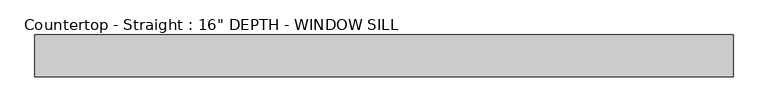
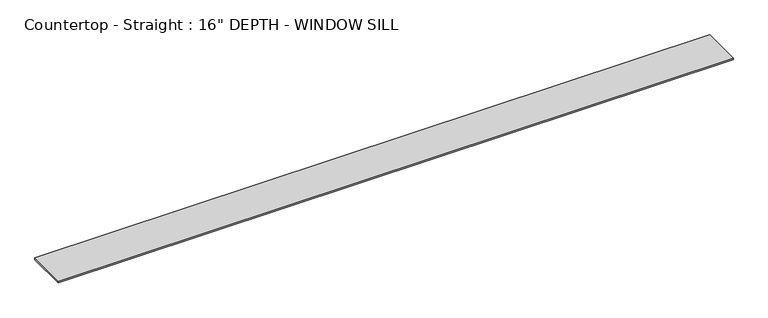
"""IFC4 building model written with IfcOpenShell, lengths in millimetres: furniture geometry."""

from ifc_helpers import new_model, si_unit, frame, origin, place, context, project, spatial, polyline, outline, extrude, source, transform, mapped, element, save


def furniture_16195ded(model_context):
    return source(origin(), model_context, "Body", "SweptSolid", [
        extrude(outline(polyline([(5571.661371, 0.0), (5571.661371, -406.4), (-1200.4622951, -406.4), (-1200.4622951, 0.0), (5571.661371, 0.0)])), frame((0.0, 0.0, 844.55), z_axis=(0.0, 0.0, 1.0), x_axis=(1.0, 0.0, 0.0)), (0.0, 0.0, 1.0), 19.05),
    ])


if __name__ == "__main__":
    model = new_model("IFC4")
    model_context = context("Model", 3, world=origin())
    ifc_project = project(units=[si_unit("LENGTHUNIT", "METRE", prefix="MILLI")], contexts=[model_context])
    site = spatial("IfcSite", under=ifc_project)
    building = spatial("IfcBuilding", under=site)
    placement = place(None, origin())
    furniture_shape = furniture_16195ded(model_context)
    element("IfcFurniture", 1, ObjectType="Countertop - Straight : 16\" DEPTH - WINDOW SILL", at=placement, inside=building, context=model_context, shape_type="MappedRepresentation", body=[
        mapped(furniture_shape, transform((0.0, 0.0, 0.0), x_axis=(1.0, 0.0, 0.0), y_axis=(0.0, 1.0, 0.0), z_axis=(0.0, 0.0, 1.0))),
    ])
    save(model, "model.ifc")
